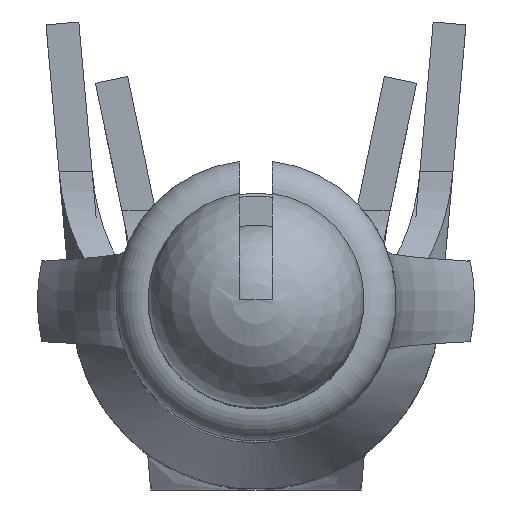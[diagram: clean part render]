
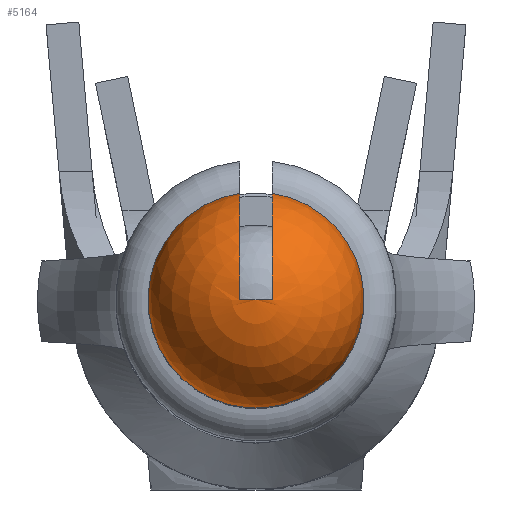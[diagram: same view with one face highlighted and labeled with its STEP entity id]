
A CAD part, top view. The second image highlights one B-rep face of the part: STEP entity #5164.
In plain terms, the highlighted spherical face has radius 1.041 mm.
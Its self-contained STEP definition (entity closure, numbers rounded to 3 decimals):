
#2246=CARTESIAN_POINT('',(0.,1.353,-1.041));
#2247=DIRECTION('',(0.,0.,-1.));
#2248=DIRECTION('',(0.152,0.988,0.));
#2249=AXIS2_PLACEMENT_3D('',#2246,#2247,#2248);
#2251=CARTESIAN_POINT('',(-0.159,1.353,-1.041));
#2252=DIRECTION('',(-1.,0.,0.));
#2253=DIRECTION('',(0.,0.,1.));
#2254=AXIS2_PLACEMENT_3D('',#2251,#2252,#2253);
#2256=CARTESIAN_POINT('',(0.,1.353,-1.041));
#2257=DIRECTION('',(0.,1.,0.));
#2258=DIRECTION('',(-0.152,0.,0.988));
#2259=AXIS2_PLACEMENT_3D('',#2256,#2257,#2258);
#2261=CARTESIAN_POINT('',(0.,1.353,-1.041));
#2262=DIRECTION('',(0.,-1.,0.));
#2263=DIRECTION('',(0.152,0.,0.988));
#2264=AXIS2_PLACEMENT_3D('',#2261,#2262,#2263);
#2266=CARTESIAN_POINT('',(0.159,1.353,-1.041));
#2267=DIRECTION('',(1.,0.,0.));
#2268=DIRECTION('',(0.,1.,0.));
#2269=AXIS2_PLACEMENT_3D('',#2266,#2267,#2268);
#3515=CARTESIAN_POINT('',(0.159,1.353,-0.012));
#3516=CARTESIAN_POINT('',(0.,1.353,0.));
#3517=VERTEX_POINT('',#3515);
#3518=VERTEX_POINT('',#3516);
#3519=CARTESIAN_POINT('',(0.159,2.382,-1.041));
#3520=VERTEX_POINT('',#3519);
#3521=CARTESIAN_POINT('',(-0.159,1.353,-0.012));
#3522=VERTEX_POINT('',#3521);
#3523=CARTESIAN_POINT('',(-0.159,2.382,-1.041));
#3524=VERTEX_POINT('',#3523);
#5151=CARTESIAN_POINT('',(0.,1.353,-1.041));
#5152=DIRECTION('',(0.,0.,1.));
#5153=DIRECTION('',(0.,1.,0.));
#5154=AXIS2_PLACEMENT_3D('',#5151,#5152,#5153);
#5155=SPHERICAL_SURFACE('',#5154,1.041);
#5157=ORIENTED_EDGE('',*,*,#5156,.T.);
#5158=ORIENTED_EDGE('',*,*,#5094,.F.);
#5159=ORIENTED_EDGE('',*,*,#5145,.T.);
#5160=ORIENTED_EDGE('',*,*,#5143,.F.);
#5161=ORIENTED_EDGE('',*,*,#5028,.F.);
#5162=EDGE_LOOP('',(#5157,#5158,#5159,#5160,#5161));
#5163=FACE_OUTER_BOUND('',#5162,.F.);
#2250=CIRCLE('',#2249,1.041);
#2255=CIRCLE('',#2254,1.029);
#2260=CIRCLE('',#2259,1.041);
#2265=CIRCLE('',#2264,1.041);
#2270=CIRCLE('',#2269,1.029);
#5028=EDGE_CURVE('',#3520,#3517,#2270,.T.);
#5094=EDGE_CURVE('',#3522,#3524,#2255,.T.);
#5143=EDGE_CURVE('',#3517,#3518,#2265,.T.);
#5145=EDGE_CURVE('',#3522,#3518,#2260,.T.);
#5156=EDGE_CURVE('',#3520,#3524,#2250,.T.);
#5164=ADVANCED_FACE('',(#5163),#5155,.T.);
